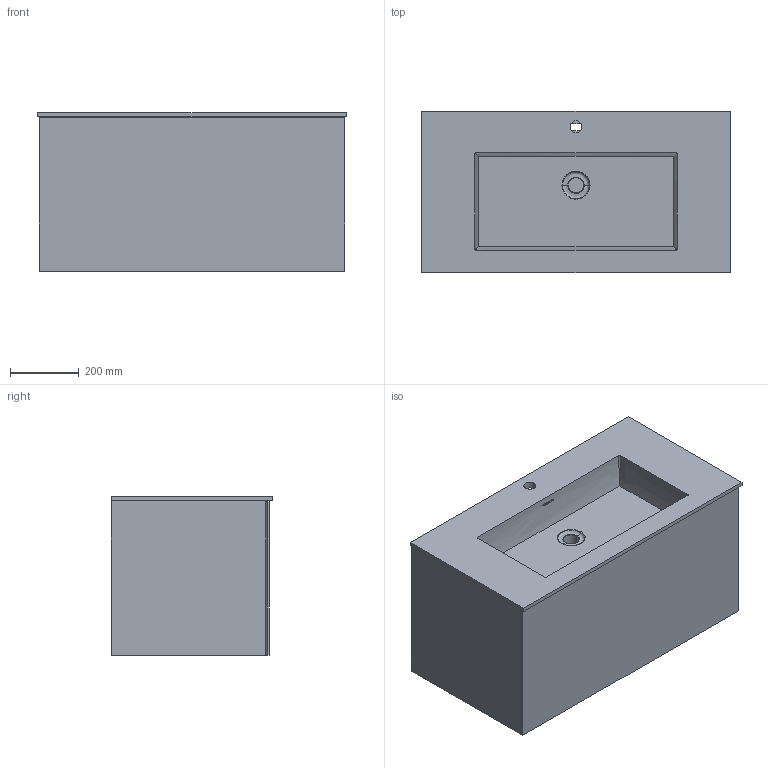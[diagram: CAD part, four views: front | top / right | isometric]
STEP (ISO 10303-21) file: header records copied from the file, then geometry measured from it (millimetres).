
FILE_DESCRIPTION (( 'STEP AP214' ), '1' );
FILE_NAME ('blanche-900.STEP', '2020-07-02T05:39:24', ( '' ), ( '' ), 'SwSTEP 2.0', 'SolidWorks 2020', '' );
FILE_SCHEMA (( 'AUTOMOTIVE_DESIGN' ));
Length unit declared in the file: millimetre
Products named in the file (3): 1-11; blanche-900-2; blanche-900
Assembly tree (2 placements, depth 2):
  blanche-900
    1-11
    blanche-900-2
Bounding box: 900 x 470 x 462 mm (x, y, z)
Volume: 42254724.9 mm3; surface area: 6452426.6 mm2
Topology: 30 solids, 30 shells, 400 faces, 996 edges, 658 vertices
Faces by surface type: plane 245, cylinder 127, bspline 28
Entity records: 15052 total; most frequent: CARTESIAN_POINT 4976, ORIENTED_EDGE 1992, DIRECTION 1924, EDGE_CURVE 996, LINE 694, VECTOR 694, VERTEX_POINT 658, AXIS2_PLACEMENT_3D 615
